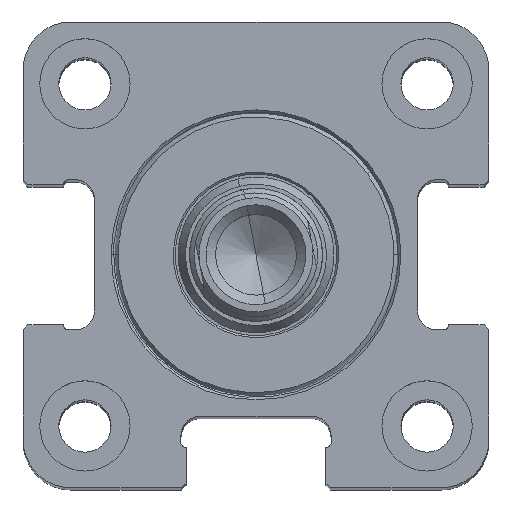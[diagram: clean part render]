
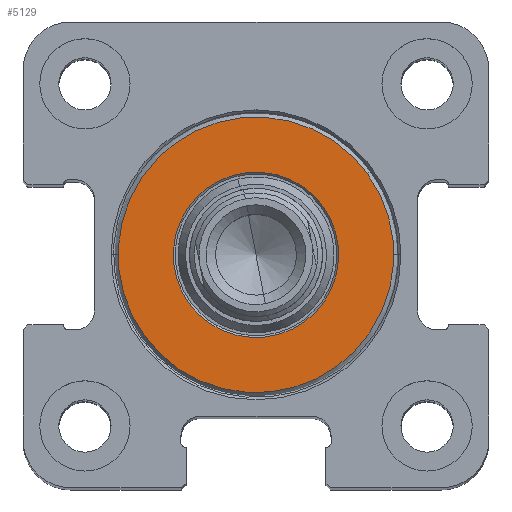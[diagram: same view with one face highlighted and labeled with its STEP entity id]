
A CAD part, top view. The second image highlights one B-rep face of the part: STEP entity #5129.
In plain terms, the highlighted planar face has unit normal (0, 0, 1) as drawn and (-1, 0, 0) by its records, which use the part's own axes.
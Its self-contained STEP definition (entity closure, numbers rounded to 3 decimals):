
#506 = DIRECTION ( 'NONE',  ( -1., 0., 0. ) ) ;
#794 = AXIS2_PLACEMENT_3D ( 'NONE', #9770, #506, #8241 ) ;
#823 = AXIS2_PLACEMENT_3D ( 'NONE', #15717, #5044, #2532 ) ;
#1392 = AXIS2_PLACEMENT_3D ( 'NONE', #8713, #13947, #12662 ) ;
#1610 = CIRCLE ( 'NONE', #794, 14.5 ) ;
#2205 = ORIENTED_EDGE ( 'NONE', *, *, #16464, .T. ) ;
#2509 = ORIENTED_EDGE ( 'NONE', *, *, #4017, .T. ) ;
#2532 = DIRECTION ( 'NONE',  ( 0., 0., -1. ) ) ;
#3102 = DIRECTION ( 'NONE',  ( 0., 0., -1. ) ) ;
#4017 = EDGE_CURVE ( 'NONE', #7527, #4491, #1610, .T. ) ;
#4219 = CARTESIAN_POINT ( 'NONE',  ( 0., 0., 14.5 ) ) ;
#4491 = VERTEX_POINT ( 'NONE', #12671 ) ;
#4496 = DIRECTION ( 'NONE',  ( 1., 0., 0. ) ) ;
#4835 = FACE_OUTER_BOUND ( 'NONE', #15108, .T. ) ;
#5044 = DIRECTION ( 'NONE',  ( 1., 0., 0. ) ) ;
#5129 = ADVANCED_FACE ( 'NONE', ( #11102, #4835 ), #12535, .F. ) ;
#6613 = AXIS2_PLACEMENT_3D ( 'NONE', #14846, #7055, #3102 ) ;
#7055 = DIRECTION ( 'NONE',  ( 1., 0., 0. ) ) ;
#7154 = CARTESIAN_POINT ( 'NONE',  ( 0., 7., 0. ) ) ;
#7325 = DIRECTION ( 'NONE',  ( 0., 0., -1. ) ) ;
#7527 = VERTEX_POINT ( 'NONE', #4219 ) ;
#7911 = CARTESIAN_POINT ( 'NONE',  ( 0., 0., -8.7 ) ) ;
#8241 = DIRECTION ( 'NONE',  ( 0., 0., -1. ) ) ;
#8713 = CARTESIAN_POINT ( 'NONE',  ( 0., 0., 0. ) ) ;
#9717 = EDGE_LOOP ( 'NONE', ( #14490, #16541 ) ) ;
#9770 = CARTESIAN_POINT ( 'NONE',  ( 0., 0., 0. ) ) ;
#10723 = CIRCLE ( 'NONE', #1392, 14.5 ) ;
#11037 = EDGE_CURVE ( 'NONE', #14934, #12139, #16133, .T. ) ;
#11102 = FACE_BOUND ( 'NONE', #9717, .T. ) ;
#11533 = CIRCLE ( 'NONE', #6613, 8.7 ) ;
#12139 = VERTEX_POINT ( 'NONE', #7911 ) ;
#12204 = EDGE_CURVE ( 'NONE', #12139, #14934, #11533, .T. ) ;
#12260 = CARTESIAN_POINT ( 'NONE',  ( 0., 0., 8.7 ) ) ;
#12535 = PLANE ( 'NONE',  #16337 ) ;
#12662 = DIRECTION ( 'NONE',  ( 0., 0., -1. ) ) ;
#12671 = CARTESIAN_POINT ( 'NONE',  ( 0., 0., -14.5 ) ) ;
#13947 = DIRECTION ( 'NONE',  ( -1., 0., 0. ) ) ;
#14490 = ORIENTED_EDGE ( 'NONE', *, *, #11037, .T. ) ;
#14846 = CARTESIAN_POINT ( 'NONE',  ( 0., 0., 0. ) ) ;
#14934 = VERTEX_POINT ( 'NONE', #12260 ) ;
#15108 = EDGE_LOOP ( 'NONE', ( #2205, #2509 ) ) ;
#15717 = CARTESIAN_POINT ( 'NONE',  ( 0., 0., 0. ) ) ;
#16133 = CIRCLE ( 'NONE', #823, 8.7 ) ;
#16337 = AXIS2_PLACEMENT_3D ( 'NONE', #7154, #4496, #7325 ) ;
#16464 = EDGE_CURVE ( 'NONE', #4491, #7527, #10723, .T. ) ;
#16541 = ORIENTED_EDGE ( 'NONE', *, *, #12204, .T. ) ;
